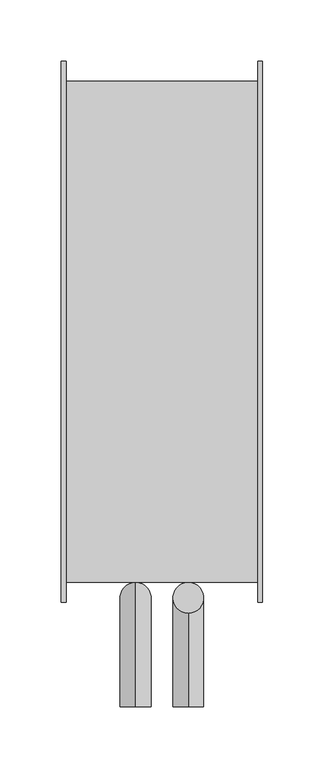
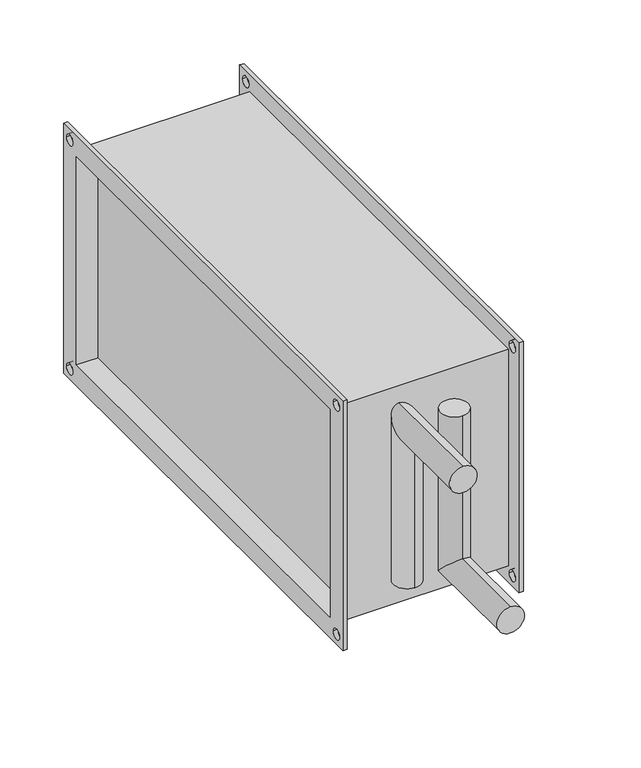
"""IFC4 building model written with IfcOpenShell, lengths in millimetres: proxy geometry, СВ_ВоздухонагревательВодяной_КанальныйПрямоугольный_200-1000_SPH-W : SPH-W-400x200/2."""

from ifc_helpers import new_model, si_unit, frame, origin, place, context, project, spatial, polyline, circle_curve, ellipse_curve, source, transform, mapped, element, save
from ifc_brep_helpers import plane_surface, cylinder_surface, revolved_surface, advanced_brep


def mechanical_equipment_5490f18c(model_context):
    return source(origin(), model_context, "Body", "AdvancedBrep", [
        advanced_brep(
        [(21.5, -204.0, 75.0), (21.5, -229.0, 75.0), (21.5, -204.0, -87.5), (21.5, -229.0, -62.5), (21.5, -305.0, -87.5), (21.5, -305.0, -62.5)],
        [
            (0, 1, circle_curve(frame((21.5, -216.5, 75.0), z_axis=(0.0, 0.0, 1.0), x_axis=(0.0, -1.0, 0.0)), 12.5)),
            (1, 0, circle_curve(frame((21.5, -216.5, 75.0), z_axis=(0.0, 0.0, 1.0), x_axis=(0.0, -1.0, 0.0)), 12.5)),
            (0, 2),
            (2, 3, ellipse_curve(frame((21.5, -216.5, -75.0), z_axis=(0.0, 0.7071067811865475, 0.7071067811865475), x_axis=(0.0, -0.7071067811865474, 0.7071067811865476)), 17.6776695, 12.5)),
            (3, 1),
            (3, 2, ellipse_curve(frame((21.5, -216.5, -75.0), z_axis=(0.0, 0.7071067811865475, 0.7071067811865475), x_axis=(0.0, -0.7071067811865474, 0.7071067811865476)), 17.6776695, 12.5)),
            (4, 5, circle_curve(frame((21.5, -305.0, -75.0), z_axis=(0.0, -1.0, 0.0), x_axis=(0.0, 0.0, 1.0)), 12.5)),
            (5, 4, circle_curve(frame((21.5, -305.0, -75.0), z_axis=(0.0, -1.0, 0.0), x_axis=(0.0, 0.0, 1.0)), 12.5)),
            (2, 4),
            (5, 3),
        ],
        [
            plane_surface(frame((21.5, -216.5, 75.0), z_axis=(0.0, 0.0, 1.0), x_axis=(-1.0, 0.0, 0.0))),
            cylinder_surface(frame((21.5, -216.5, 75.0), z_axis=(0.0, 0.0, 1.0), x_axis=(0.0, -1.0, 0.0)), 12.5),
            plane_surface(frame((21.5, -305.0, -75.0), z_axis=(0.0, -1.0, 0.0), x_axis=(-1.0, 0.0, 0.0))),
            cylinder_surface(frame((21.5, -216.5, -75.0), z_axis=(0.0, 1.0, 0.0), x_axis=(0.0, 0.0, 1.0)), 12.5),
        ],
        [
            (0, [[1, 2]]),
            (1, [[-1, 3, 4, 5]]),
            (1, [[-2, -5, 6, -3]]),
            (2, [[7, 8]]),
            (3, [[-4, 9, -8, 10]]),
            (3, [[-6, -10, -7, -9]]),
        ],
    ),
        advanced_brep(
        [(-21.5, -204.0, -75.0), (-21.5, -229.0, -75.0), (-21.5, -204.0, 87.5), (-21.5, -229.0, 62.5), (-21.5, -305.0, 87.5), (-21.5, -305.0, 62.5)],
        [
            (0, 1, circle_curve(frame((-21.5, -216.5, -75.0), z_axis=(0.0, 0.0, -1.0), x_axis=(0.0, -1.0, 0.0)), 12.5)),
            (1, 0, circle_curve(frame((-21.5, -216.5, -75.0), z_axis=(0.0, 0.0, -1.0), x_axis=(0.0, -1.0, 0.0)), 12.5)),
            (0, 2),
            (2, 3, ellipse_curve(frame((-21.5, -216.5, 75.0), z_axis=(0.0, 0.7071067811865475, -0.7071067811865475), x_axis=(0.0, -0.7071067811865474, -0.7071067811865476)), 17.6776695, 12.5)),
            (3, 1),
            (3, 2, ellipse_curve(frame((-21.5, -216.5, 75.0), z_axis=(0.0, 0.7071067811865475, -0.7071067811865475), x_axis=(0.0, -0.7071067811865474, -0.7071067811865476)), 17.6776695, 12.5)),
            (4, 5, circle_curve(frame((-21.5, -305.0, 75.0), z_axis=(0.0, -1.0, 0.0), x_axis=(0.0, 0.0, -1.0)), 12.5)),
            (5, 4, circle_curve(frame((-21.5, -305.0, 75.0), z_axis=(0.0, -1.0, 0.0), x_axis=(0.0, 0.0, -1.0)), 12.5)),
            (2, 4),
            (5, 3),
        ],
        [
            plane_surface(frame((-21.5, -216.5, -75.0), z_axis=(0.0, 0.0, -1.0), x_axis=(1.0, 0.0, 0.0))),
            cylinder_surface(frame((-21.5, -216.5, -75.0), z_axis=(0.0, 0.0, -1.0), x_axis=(0.0, -1.0, 0.0)), 12.5),
            plane_surface(frame((-21.5, -305.0, 75.0), z_axis=(0.0, -1.0, 0.0), x_axis=(1.0, 0.0, 0.0))),
            cylinder_surface(frame((-21.5, -216.5, 75.0), z_axis=(0.0, 1.0, 0.0), x_axis=(0.0, 0.0, -1.0)), 12.5),
        ],
        [
            (0, [[1, 2]]),
            (1, [[-1, 3, 4, 5]]),
            (1, [[-2, -5, 6, -3]]),
            (2, [[7, 8]]),
            (3, [[-4, 9, -8, 10]]),
            (3, [[-6, -10, -7, -9]]),
        ],
    ),
        advanced_brep(
        [(-78.0, -204.0, 104.0), (-78.0, -204.0, -104.0), (78.0, -204.0, -104.0), (78.0, -204.0, 104.0), (-78.0, 204.0, -104.0), (78.0, 204.0, -104.0), (-78.0, 204.0, 104.0), (78.0, 204.0, 104.0), (62.0, 200.0, -100.0), (62.0, 200.0, 100.0), (62.0, -200.0, 100.0), (62.0, -200.0, -100.0), (-62.0, -200.0, 100.0), (-62.0, 200.0, 100.0), (-62.0, 200.0, -100.0), (-62.0, -200.0, -100.0), (-82.0, -220.0, 120.0), (-82.0, 220.0, 120.0), (-82.0, 220.0, -120.0), (-82.0, -220.0, -120.0), (-82.0, -200.0, 100.0), (-82.0, -200.0, -100.0), (-82.0, 200.0, -100.0), (-82.0, 200.0, 100.0), (-82.0, 205.0, 110.0), (-82.0, 215.0, 110.0), (-82.0, -215.0, 110.0), (-82.0, -205.0, 110.0), (-82.0, -215.0, -110.0), (-82.0, -205.0, -110.0), (-82.0, 205.0, -110.0), (-82.0, 215.0, -110.0), (-78.0, -220.0, 120.0), (-78.0, -220.0, -120.0), (-78.0, 220.0, -120.0), (-78.0, 220.0, 120.0), (-78.0, 215.0, 110.0), (-78.0, 205.0, 110.0), (-78.0, -205.0, 110.0), (-78.0, -215.0, 110.0), (-78.0, -205.0, -110.0), (-78.0, -215.0, -110.0), (-78.0, 215.0, -110.0), (-78.0, 205.0, -110.0), (78.0, 220.0, 120.0), (78.0, 220.0, -120.0), (78.0, -220.0, -120.0), (78.0, -220.0, 120.0), (78.0, 205.0, 110.0), (78.0, 215.0, 110.0), (78.0, -215.0, 110.0), (78.0, -205.0, 110.0), (78.0, -215.0, -110.0), (78.0, -205.0, -110.0), (78.0, 205.0, -110.0), (78.0, 215.0, -110.0), (82.0, 220.0, 120.0), (82.0, -220.0, 120.0), (82.0, -220.0, -120.0), (82.0, 220.0, -120.0), (82.0, 200.0, 100.0), (82.0, 200.0, -100.0), (82.0, -200.0, -100.0), (82.0, -200.0, 100.0), (82.0, 215.0, 110.0), (82.0, 205.0, 110.0), (82.0, -205.0, 110.0), (82.0, -215.0, 110.0), (82.0, -205.0, -110.0), (82.0, -215.0, -110.0), (82.0, 215.0, -110.0), (82.0, 205.0, -110.0)],
        [
            (0, 1),
            (1, 2),
            (2, 3),
            (3, 0),
            (1, 4),
            (4, 5),
            (5, 2),
            (4, 6),
            (6, 7),
            (7, 5),
            (6, 0),
            (3, 7),
            (8, 9),
            (9, 10),
            (10, 11),
            (11, 8),
            (12, 13),
            (13, 14),
            (14, 15),
            (15, 12),
            (16, 17),
            (17, 18),
            (18, 19),
            (19, 16),
            (20, 21),
            (21, 22),
            (22, 23),
            (23, 20),
            (24, 25, circle_curve(frame((-82.0, 210.0, 110.0), z_axis=(1.0, 0.0, 0.0), x_axis=(0.0, -1.0, 0.0)), 5.0)),
            (25, 24, circle_curve(frame((-82.0, 210.0, 110.0), z_axis=(1.0, 0.0, 0.0), x_axis=(0.0, -1.0, 0.0)), 5.0)),
            (26, 27, circle_curve(frame((-82.0, -210.0, 110.0), z_axis=(1.0, 0.0, 0.0), x_axis=(0.0, -1.0, 0.0)), 5.0)),
            (27, 26, circle_curve(frame((-82.0, -210.0, 110.0), z_axis=(1.0, 0.0, 0.0), x_axis=(0.0, -1.0, 0.0)), 5.0)),
            (28, 29, circle_curve(frame((-82.0, -210.0, -110.0), z_axis=(1.0, 0.0, 0.0), x_axis=(0.0, -1.0, 0.0)), 5.0)),
            (29, 28, circle_curve(frame((-82.0, -210.0, -110.0), z_axis=(1.0, 0.0, 0.0), x_axis=(0.0, -1.0, 0.0)), 5.0)),
            (30, 31, circle_curve(frame((-82.0, 210.0, -110.0), z_axis=(1.0, 0.0, 0.0), x_axis=(0.0, -1.0, 0.0)), 5.0)),
            (31, 30, circle_curve(frame((-82.0, 210.0, -110.0), z_axis=(1.0, 0.0, 0.0), x_axis=(0.0, -1.0, 0.0)), 5.0)),
            (32, 33),
            (33, 34),
            (34, 35),
            (35, 32),
            (36, 37, circle_curve(frame((-78.0, 210.0, 110.0), z_axis=(-1.0, 0.0, 0.0), x_axis=(0.0, -1.0, 0.0)), 5.0)),
            (37, 36, circle_curve(frame((-78.0, 210.0, 110.0), z_axis=(-1.0, 0.0, 0.0), x_axis=(0.0, -1.0, 0.0)), 5.0)),
            (38, 39, circle_curve(frame((-78.0, -210.0, 110.0), z_axis=(-1.0, 0.0, 0.0), x_axis=(0.0, -1.0, 0.0)), 5.0)),
            (39, 38, circle_curve(frame((-78.0, -210.0, 110.0), z_axis=(-1.0, 0.0, 0.0), x_axis=(0.0, -1.0, 0.0)), 5.0)),
            (40, 41, circle_curve(frame((-78.0, -210.0, -110.0), z_axis=(-1.0, 0.0, 0.0), x_axis=(0.0, -1.0, 0.0)), 5.0)),
            (41, 40, circle_curve(frame((-78.0, -210.0, -110.0), z_axis=(-1.0, 0.0, 0.0), x_axis=(0.0, -1.0, 0.0)), 5.0)),
            (42, 43, circle_curve(frame((-78.0, 210.0, -110.0), z_axis=(-1.0, 0.0, 0.0), x_axis=(0.0, -1.0, 0.0)), 5.0)),
            (43, 42, circle_curve(frame((-78.0, 210.0, -110.0), z_axis=(-1.0, 0.0, 0.0), x_axis=(0.0, -1.0, 0.0)), 5.0)),
            (19, 33),
            (32, 16),
            (18, 34),
            (17, 35),
            (44, 45),
            (45, 46),
            (46, 47),
            (47, 44),
            (48, 49, circle_curve(frame((78.0, 210.0, 110.0), z_axis=(1.0, 0.0, 0.0), x_axis=(0.0, -1.0, 0.0)), 5.0)),
            (49, 48, circle_curve(frame((78.0, 210.0, 110.0), z_axis=(1.0, 0.0, 0.0), x_axis=(0.0, -1.0, 0.0)), 5.0)),
            (50, 51, circle_curve(frame((78.0, -210.0, 110.0), z_axis=(1.0, 0.0, 0.0), x_axis=(0.0, -1.0, 0.0)), 5.0)),
            (51, 50, circle_curve(frame((78.0, -210.0, 110.0), z_axis=(1.0, 0.0, 0.0), x_axis=(0.0, -1.0, 0.0)), 5.0)),
            (52, 53, circle_curve(frame((78.0, -210.0, -110.0), z_axis=(1.0, 0.0, 0.0), x_axis=(0.0, -1.0, 0.0)), 5.0)),
            (53, 52, circle_curve(frame((78.0, -210.0, -110.0), z_axis=(1.0, 0.0, 0.0), x_axis=(0.0, -1.0, 0.0)), 5.0)),
            (54, 55, circle_curve(frame((78.0, 210.0, -110.0), z_axis=(1.0, 0.0, 0.0), x_axis=(0.0, -1.0, 0.0)), 5.0)),
            (55, 54, circle_curve(frame((78.0, 210.0, -110.0), z_axis=(1.0, 0.0, 0.0), x_axis=(0.0, -1.0, 0.0)), 5.0)),
            (56, 57),
            (57, 58),
            (58, 59),
            (59, 56),
            (60, 61),
            (61, 62),
            (62, 63),
            (63, 60),
            (64, 65, circle_curve(frame((82.0, 210.0, 110.0), z_axis=(-1.0, 0.0, 0.0), x_axis=(0.0, -1.0, 0.0)), 5.0)),
            (65, 64, circle_curve(frame((82.0, 210.0, 110.0), z_axis=(-1.0, 0.0, 0.0), x_axis=(0.0, -1.0, 0.0)), 5.0)),
            (66, 67, circle_curve(frame((82.0, -210.0, 110.0), z_axis=(-1.0, 0.0, 0.0), x_axis=(0.0, -1.0, 0.0)), 5.0)),
            (67, 66, circle_curve(frame((82.0, -210.0, 110.0), z_axis=(-1.0, 0.0, 0.0), x_axis=(0.0, -1.0, 0.0)), 5.0)),
            (68, 69, circle_curve(frame((82.0, -210.0, -110.0), z_axis=(-1.0, 0.0, 0.0), x_axis=(0.0, -1.0, 0.0)), 5.0)),
            (69, 68, circle_curve(frame((82.0, -210.0, -110.0), z_axis=(-1.0, 0.0, 0.0), x_axis=(0.0, -1.0, 0.0)), 5.0)),
            (70, 71, circle_curve(frame((82.0, 210.0, -110.0), z_axis=(-1.0, 0.0, 0.0), x_axis=(0.0, -1.0, 0.0)), 5.0)),
            (71, 70, circle_curve(frame((82.0, 210.0, -110.0), z_axis=(-1.0, 0.0, 0.0), x_axis=(0.0, -1.0, 0.0)), 5.0)),
            (47, 57),
            (56, 44),
            (46, 58),
            (45, 59),
            (23, 13),
            (12, 20),
            (22, 14),
            (21, 15),
            (60, 9),
            (8, 61),
            (11, 62),
            (10, 63),
            (36, 25),
            (24, 37),
            (64, 49),
            (48, 65),
            (38, 27),
            (26, 39),
            (66, 51),
            (50, 67),
            (40, 29),
            (28, 41),
            (68, 53),
            (52, 69),
            (42, 31),
            (30, 43),
            (70, 55),
            (54, 71),
        ],
        [
            plane_surface(frame((-62.0, -204.0, 104.0), z_axis=(0.0, -1.0, 0.0), x_axis=(-1.0, 0.0, 0.0))),
            plane_surface(frame((-62.0, -204.0, -104.0), z_axis=(0.0, 0.0, -1.0), x_axis=(-1.0, 0.0, 0.0))),
            plane_surface(frame((-62.0, 204.0, -104.0), z_axis=(0.0, 1.0, 0.0), x_axis=(-1.0, 0.0, 0.0))),
            plane_surface(frame((-62.0, 204.0, 104.0), z_axis=(0.0, 0.0, 1.0), x_axis=(-1.0, 0.0, 0.0))),
            plane_surface(frame((62.0, -204.0, 104.0), z_axis=(1.0, 0.0, 0.0), x_axis=(0.0, 0.0, -1.0))),
            plane_surface(frame((-62.0, -204.0, 104.0), z_axis=(-1.0, 0.0, 0.0), x_axis=(0.0, 0.0, 1.0))),
            plane_surface(frame((-82.0, -220.0, 120.0), z_axis=(-1.0, 0.0, 0.0), x_axis=(0.0, 0.0, 1.0))),
            plane_surface(frame((-78.0, -220.0, 120.0), z_axis=(1.0, 0.0, 0.0), x_axis=(0.0, 0.0, -1.0))),
            plane_surface(frame((-78.0, -220.0, 120.0), z_axis=(0.0, -1.0, 0.0), x_axis=(-1.0, 0.0, 0.0))),
            plane_surface(frame((-78.0, -220.0, -120.0), z_axis=(0.0, 0.0, -1.0), x_axis=(-1.0, 0.0, 0.0))),
            plane_surface(frame((-78.0, 220.0, -120.0), z_axis=(0.0, 1.0, 0.0), x_axis=(-1.0, 0.0, 0.0))),
            plane_surface(frame((-78.0, 220.0, 120.0), z_axis=(0.0, 0.0, 1.0), x_axis=(-1.0, 0.0, 0.0))),
            plane_surface(frame((78.0, 200.0, -100.0), z_axis=(-1.0, 0.0, 0.0), x_axis=(0.0, 0.0, 1.0))),
            plane_surface(frame((82.0, 200.0, -100.0), z_axis=(1.0, 0.0, 0.0), x_axis=(0.0, 0.0, -1.0))),
            plane_surface(frame((82.0, 220.0, 120.0), z_axis=(0.0, 0.0, 1.0), x_axis=(-1.0, 0.0, 0.0))),
            plane_surface(frame((82.0, -220.0, 120.0), z_axis=(0.0, -1.0, 0.0), x_axis=(-1.0, 0.0, 0.0))),
            plane_surface(frame((82.0, -220.0, -120.0), z_axis=(0.0, 0.0, -1.0), x_axis=(-1.0, 0.0, 0.0))),
            plane_surface(frame((82.0, 220.0, -120.0), z_axis=(0.0, 1.0, 0.0), x_axis=(-1.0, 0.0, 0.0))),
            plane_surface(frame((-78.0, -200.0, 100.0), z_axis=(0.0, 0.0, -1.0), x_axis=(-1.0, 0.0, 0.0))),
            plane_surface(frame((-78.0, 200.0, 100.0), z_axis=(0.0, -1.0, 0.0), x_axis=(-1.0, 0.0, 0.0))),
            plane_surface(frame((-78.0, 200.0, -100.0), z_axis=(0.0, 0.0, 1.0), x_axis=(-1.0, 0.0, 0.0))),
            plane_surface(frame((-78.0, -200.0, -100.0), z_axis=(0.0, 1.0, 0.0), x_axis=(-1.0, 0.0, 0.0))),
            plane_surface(frame((82.0, 200.0, 100.0), z_axis=(0.0, -1.0, 0.0), x_axis=(-1.0, 0.0, 0.0))),
            plane_surface(frame((82.0, 200.0, -100.0), z_axis=(0.0, 0.0, 1.0), x_axis=(-1.0, 0.0, 0.0))),
            plane_surface(frame((82.0, -200.0, -100.0), z_axis=(0.0, 1.0, 0.0), x_axis=(-1.0, 0.0, 0.0))),
            plane_surface(frame((82.0, -200.0, 100.0), z_axis=(0.0, 0.0, -1.0), x_axis=(-1.0, 0.0, 0.0))),
            revolved_surface(polyline([(-82.0, 205.0, 110.0), (-78.0, 205.0, 110.0)]), (82.0, 210.0, 110.0), (-1.0, 0.0, 0.0)),
            revolved_surface(polyline([(78.0, 205.0, 110.0), (82.0, 205.0, 110.0)]), (82.0, 210.0, 110.0), (-1.0, 0.0, 0.0)),
            revolved_surface(polyline([(-82.0, -215.0, 110.0), (-78.0, -215.0, 110.0)]), (21.5, -210.0, 110.0), (-1.0, 0.0, 0.0)),
            revolved_surface(polyline([(78.0, -215.0, 110.0), (82.0, -215.0, 110.0)]), (21.5, -210.0, 110.0), (-1.0, 0.0, 0.0)),
            revolved_surface(polyline([(-82.0, -215.0, -110.0), (-78.0, -215.0, -110.0)]), (21.5, -210.0, -110.0), (-1.0, 0.0, 0.0)),
            revolved_surface(polyline([(78.0, -215.0, -110.0), (82.0, -215.0, -110.0)]), (21.5, -210.0, -110.0), (-1.0, 0.0, 0.0)),
            revolved_surface(polyline([(-82.0, 205.0, -110.0), (-78.0, 205.0, -110.0)]), (21.5, 210.0, -110.0), (-1.0, 0.0, 0.0)),
            revolved_surface(polyline([(78.0, 205.0, -110.0), (82.0, 205.0, -110.0)]), (21.5, 210.0, -110.0), (-1.0, 0.0, 0.0)),
        ],
        [
            (0, [[1, 2, 3, 4]]),
            (1, [[-2, 5, 6, 7]]),
            (2, [[-6, 8, 9, 10]]),
            (3, [[-9, 11, -4, 12]]),
            (4, [[13, 14, 15, 16]]),
            (5, [[17, 18, 19, 20]]),
            (6, [[21, 22, 23, 24], [25, 26, 27, 28], [29, 30], [31, 32], [33, 34], [35, 36]]),
            (7, [[37, 38, 39, 40], [-1, -11, -8, -5], [41, 42], [43, 44], [45, 46], [47, 48]]),
            (8, [[-24, 49, -37, 50]]),
            (9, [[-23, 51, -38, -49]]),
            (10, [[-22, 52, -39, -51]]),
            (11, [[-21, -50, -40, -52]]),
            (12, [[53, 54, 55, 56], [-3, -7, -10, -12], [57, 58], [59, 60], [61, 62], [63, 64]]),
            (13, [[65, 66, 67, 68], [69, 70, 71, 72], [73, 74], [75, 76], [77, 78], [79, 80]]),
            (14, [[-56, 81, -65, 82]]),
            (15, [[-55, 83, -66, -81]]),
            (16, [[-54, 84, -67, -83]]),
            (17, [[-53, -82, -68, -84]]),
            (18, [[-28, 85, -17, 86]]),
            (19, [[-27, 87, -18, -85]]),
            (20, [[-26, 88, -19, -87]]),
            (21, [[-25, -86, -20, -88]]),
            (22, [[-69, 89, -13, 90]]),
            (23, [[-70, -90, -16, 91]]),
            (24, [[-71, -91, -15, 92]]),
            (25, [[-89, -72, -92, -14]]),
            (26, [[93, -29, 94, -41]]),
            (27, [[95, -57, 96, -73]]),
            (26, [[-93, -42, -94, -30]]),
            (27, [[-95, -74, -96, -58]]),
            (28, [[97, -31, 98, -43]]),
            (29, [[99, -59, 100, -75]]),
            (28, [[-97, -44, -98, -32]]),
            (29, [[-99, -76, -100, -60]]),
            (30, [[101, -33, 102, -45]]),
            (31, [[103, -61, 104, -77]]),
            (30, [[-101, -46, -102, -34]]),
            (31, [[-103, -78, -104, -62]]),
            (32, [[105, -35, 106, -47]]),
            (33, [[107, -63, 108, -79]]),
            (32, [[-105, -48, -106, -36]]),
            (33, [[-107, -80, -108, -64]]),
        ],
    ),
    ])


if __name__ == "__main__":
    model = new_model("IFC4")
    model_context = context("Model", 3, world=origin())
    ifc_project = project(units=[si_unit("LENGTHUNIT", "METRE", prefix="MILLI")], contexts=[model_context])
    site = spatial("IfcSite", under=ifc_project)
    building = spatial("IfcBuilding", under=site)
    placement = place(None, origin())
    mechanical_equipment_shape = mechanical_equipment_5490f18c(model_context)
    element("IfcBuildingElementProxy", 1, Name="СВ_ВоздухонагревательВодяной_КанальныйПрямоугольный_200-1000_SPH-W : SPH-W-400x200/2", ObjectType="СВ_ВоздухонагревательВодяной_КанальныйПрямоугольный_200-1000_SPH-W : SPH-W-400x200/2", at=placement, inside=building, context=model_context, shape_type="MappedRepresentation", body=[
        mapped(mechanical_equipment_shape, transform((0.0, 0.0, 0.0), x_axis=(1.0, 0.0, 0.0), y_axis=(0.0, 1.0, 0.0), z_axis=(0.0, 0.0, 1.0))),
    ])
    save(model, "model.ifc")
